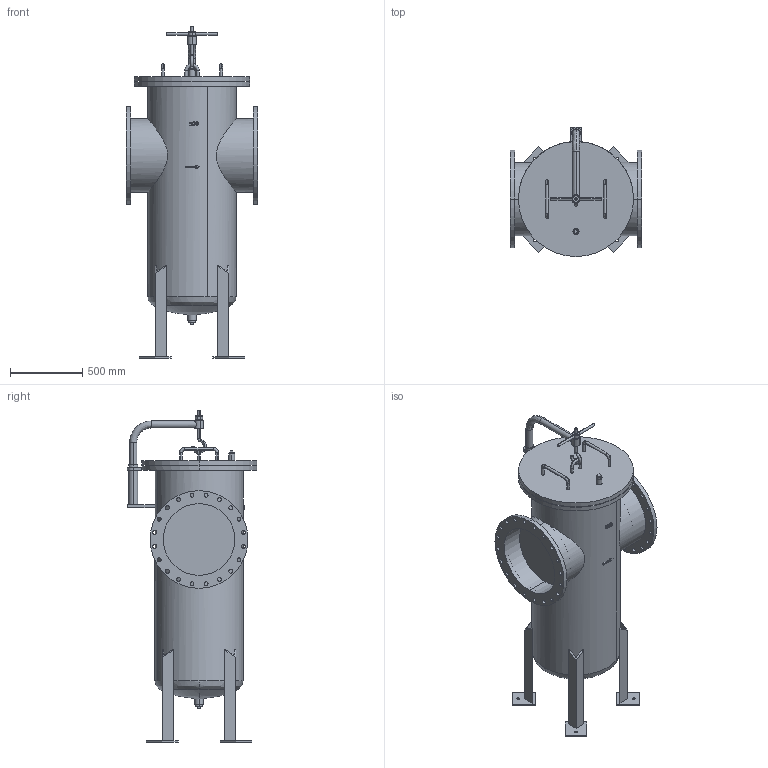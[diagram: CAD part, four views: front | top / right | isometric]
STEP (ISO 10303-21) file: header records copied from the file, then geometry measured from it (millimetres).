
FILE_DESCRIPTION( (''), '2;1');
FILE_NAME ('PC1056.7720.SU-6(500A)_25398.stp','2024-07-30T13:58:12',(''),(''),'spGate 19.8.4 (****-****-****-****)','','');
FILE_SCHEMA (('AUTOMOTIVE_DESIGN'));
Length unit declared in the file: millimetre
Products named in the file (30): Assembly; SU6(500A9本体P; PC1056-prt1; PC1056-prt2; PC1056-prt3; PC1056-prt4; PC1056-prt5; 500Aダビッド_M5; 450A取っ手_M10; PC1056-prt8; PC1056-prt9; PC1056-prt10; PC1056-prt11; PC1056-prt12; PC1056-prt13; 400Aハンドル; PC1056-prt15; PC1056-prt16; PC1056-prt17; 400Aカギ形フック_M5; 400Aカギ形フック_M6; 400Aカギ形フック_M7; PC1056-prt21; PC1056-prt22; PC1056-prt23; PC1056-prt24; PC1056-prt25; 450Aふた用ふっく_M4; plug-25A-JISB2301; plug-40A-JISB2301
Assembly tree (35 placements, depth 2):
  Assembly
    SU6(500A9本体P
    PC1056-prt1
    PC1056-prt2
    PC1056-prt3
    PC1056-prt4
    PC1056-prt5
    500Aダビッド_M5
    450A取っ手_M10  x2
    PC1056-prt8
    PC1056-prt9  x2
    PC1056-prt10  x2
    PC1056-prt11  x2
    PC1056-prt12  x2
    PC1056-prt13  x2
    400Aハンドル
    PC1056-prt15
    PC1056-prt16
    PC1056-prt17
    400Aカギ形フック_M5
    400Aカギ形フック_M6
    400Aカギ形フック_M7
    PC1056-prt21
    PC1056-prt22
    PC1056-prt23
    PC1056-prt24
    PC1056-prt25
    450Aふた用ふっく_M4
    plug-25A-JISB2301
    plug-40A-JISB2301
Bounding box: 910 x 892.5 x 2295 mm (x, y, z)
Volume: 512719054.3 mm3; surface area: 7379763.5 mm2
Topology: 11 solids, 11 shells, 412 faces, 1075 edges, 738 vertices
Faces by surface type: cylinder 215, plane 141, bspline 54, sphere 2
Entity records: 25735 total; most frequent: CARTESIAN_POINT 7292, ORIENTED_EDGE 2042, DIRECTION 1995, COLOUR_RGB 1450, PRESENTATION_STYLE_ASSIGNMENT 1450, STYLED_ITEM 1450, DRAUGHTING_PRE_DEFINED_CURVE_FONT 1040, CURVE_STYLE 1040
